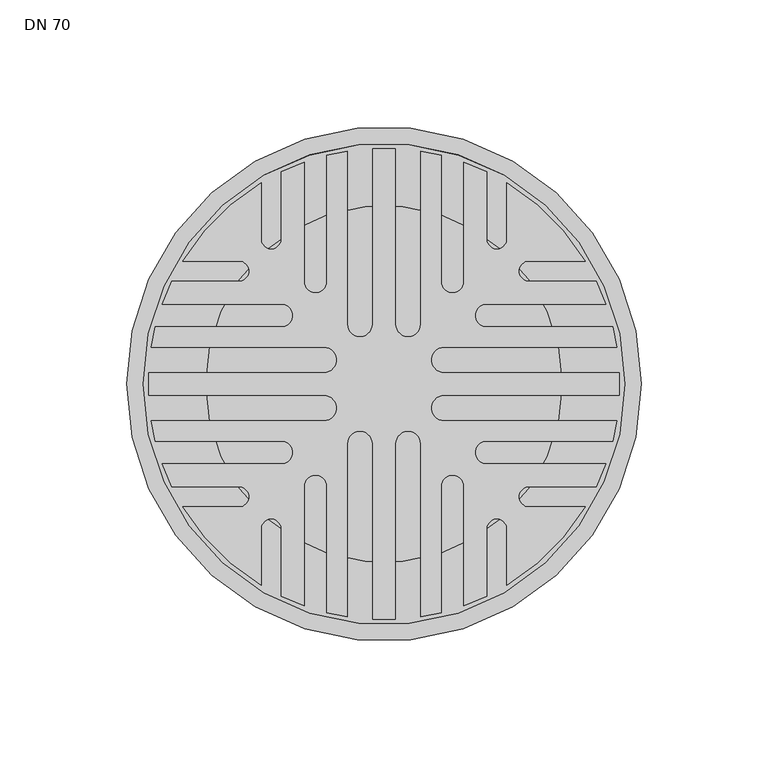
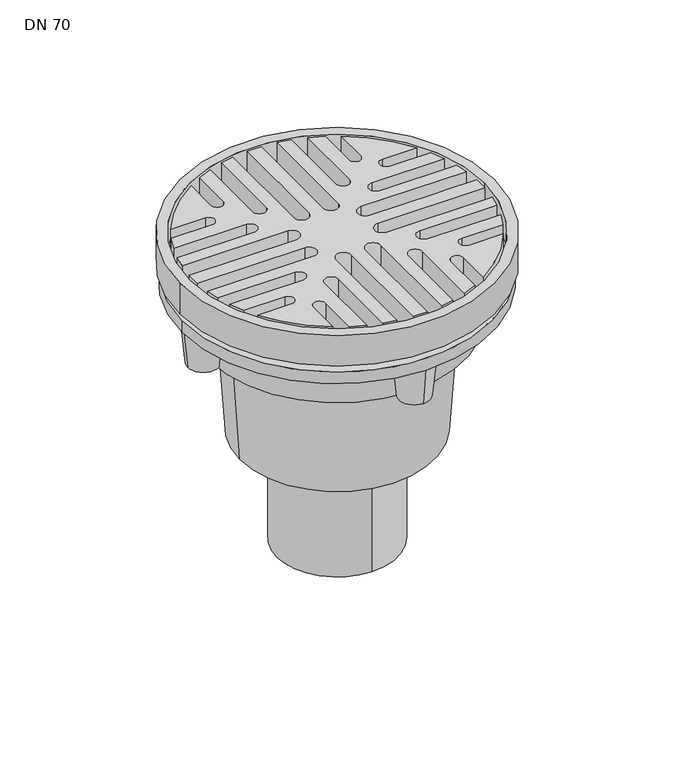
"""IFC4 building model written with IfcOpenShell, lengths in millimetres: sanitary terminal geometry, PF_GEN_UN_parkdeck gully Passavant_ACO : DN 70."""

from ifc_helpers import new_model, si_unit, point, frame, frame_2d, origin, origin_with_axes, origin_2d, place, context, project, spatial, polyline, circle_curve, trimmed, segment, composite_curve, outline, extrude, source, transform, mapped, element, save
from ifc_brep_helpers import plane_surface, cylinder_surface, revolved_surface, advanced_brep


def dn_70_8d39e11c(model_context):
    return source(origin(), model_context, "Body", "SolidModel", [
        advanced_brep(
        [(-75.35, 0.0, -45.0), (75.35, 0.0, -45.0), (-70.35, 0.0, -45.0), (70.35, 0.0, -45.0), (75.35, 0.0, -21.0), (-75.35, 0.0, -21.0), (70.35, 0.0, -21.0), (-70.35, 0.0, -21.0), (95.0, 0.0, -16.0), (-95.0, 0.0, -16.0), (-70.35, 0.0, -16.0), (70.35, 0.0, -16.0), (-101.5, 0.0, -21.0), (101.5, 0.0, -21.0), (-101.5, 0.0, 0.0), (101.5, 0.0, 0.0), (-95.0, 0.0, 0.0), (95.0, 0.0, 0.0)],
        [
            (0, 1, circle_curve(frame((0.0, 0.0, -45.0), z_axis=(0.0, 0.0, -1.0), x_axis=(1.0, 0.0, 0.0)), 75.35)),
            (1, 0, circle_curve(frame((0.0, 0.0, -45.0), z_axis=(0.0, 0.0, -1.0), x_axis=(1.0, 0.0, 0.0)), 75.35)),
            (2, 3, circle_curve(frame((0.0, 0.0, -45.0), z_axis=(0.0, 0.0, 1.0), x_axis=(1.0, 0.0, 0.0)), 70.35)),
            (3, 2, circle_curve(frame((0.0, 0.0, -45.0), z_axis=(0.0, 0.0, 1.0), x_axis=(1.0, 0.0, 0.0)), 70.35)),
            (1, 4),
            (4, 5, circle_curve(frame((0.0, 0.0, -21.0), z_axis=(0.0, 0.0, -1.0), x_axis=(1.0, 0.0, 0.0)), 75.35)),
            (5, 0),
            (5, 4, circle_curve(frame((0.0, 0.0, -21.0), z_axis=(0.0, 0.0, -1.0), x_axis=(1.0, 0.0, 0.0)), 75.35)),
            (3, 6),
            (6, 7, circle_curve(frame((0.0, 0.0, -21.0), z_axis=(0.0, 0.0, 1.0), x_axis=(1.0, 0.0, 0.0)), 70.35)),
            (7, 2),
            (7, 6, circle_curve(frame((0.0, 0.0, -21.0), z_axis=(0.0, 0.0, 1.0), x_axis=(1.0, 0.0, 0.0)), 70.35)),
            (8, 9, circle_curve(frame((0.0, 0.0, -16.0), z_axis=(0.0, 0.0, 1.0), x_axis=(1.0, 0.0, 0.0)), 95.0)),
            (9, 8, circle_curve(frame((0.0, 0.0, -16.0), z_axis=(0.0, 0.0, 1.0), x_axis=(1.0, 0.0, 0.0)), 95.0)),
            (10, 11, circle_curve(frame((0.0, 0.0, -16.0), z_axis=(0.0, 0.0, -1.0), x_axis=(1.0, 0.0, 0.0)), 70.35)),
            (11, 10, circle_curve(frame((0.0, 0.0, -16.0), z_axis=(0.0, 0.0, -1.0), x_axis=(1.0, 0.0, 0.0)), 70.35)),
            (12, 13, circle_curve(frame((0.0, 0.0, -21.0), z_axis=(0.0, 0.0, -1.0), x_axis=(1.0, 0.0, 0.0)), 101.5)),
            (13, 12, circle_curve(frame((0.0, 0.0, -21.0), z_axis=(0.0, 0.0, -1.0), x_axis=(1.0, 0.0, 0.0)), 101.5)),
            (10, 7),
            (6, 11),
            (14, 15, circle_curve(origin_with_axes(), 101.5)),
            (15, 14, circle_curve(origin_with_axes(), 101.5)),
            (16, 17, circle_curve(frame((0.0, 0.0, 0.0), z_axis=(0.0, 0.0, -1.0), x_axis=(1.0, 0.0, 0.0)), 95.0)),
            (17, 16, circle_curve(frame((0.0, 0.0, 0.0), z_axis=(0.0, 0.0, -1.0), x_axis=(1.0, 0.0, 0.0)), 95.0)),
            (14, 12),
            (13, 15),
            (16, 9),
            (8, 17),
        ],
        [
            plane_surface(frame((75.35, 0.0, -45.0), z_axis=(0.0, 0.0, -1.0), x_axis=(0.0, -1.0, 0.0))),
            cylinder_surface(frame((0.0, 0.0, -45.0), z_axis=(0.0, 0.0, 1.0), x_axis=(1.0, 0.0, 0.0)), 75.35),
            revolved_surface(polyline([(70.35, 0.0, -45.0), (70.35, 0.0, -21.0)]), (0.0, 0.0, -25.0), (0.0, 0.0, -1.0)),
            plane_surface(frame((95.0, 0.0, -16.0), z_axis=(0.0, 0.0, 1.0), x_axis=(0.0, 1.0, 0.0))),
            plane_surface(frame((95.0, 0.0, -21.0), z_axis=(0.0, 0.0, -1.0), x_axis=(0.0, -1.0, 0.0))),
            revolved_surface(polyline([(70.35, 0.0, -21.0), (70.35, 0.0, -16.0)]), (0.0, 0.0, -25.0), (0.0, 0.0, -1.0)),
            plane_surface(frame((101.5, 0.0, 0.0), z_axis=(0.0, 0.0, 1.0), x_axis=(0.0, 1.0, 0.0))),
            cylinder_surface(frame((0.0, 0.0, -21.0), z_axis=(0.0, 0.0, 1.0), x_axis=(1.0, 0.0, 0.0)), 101.5),
            revolved_surface(polyline([(95.0, 0.0, -16.0), (95.0, 0.0, 0.0)]), (0.0, 0.0, -25.0), (0.0, 0.0, -1.0)),
        ],
        [
            (0, [[1, 2], [3, 4]]),
            (1, [[-2, 5, 6, 7]]),
            (1, [[-1, -7, 8, -5]]),
            (2, [[-4, 9, 10, 11]]),
            (2, [[-3, -11, 12, -9]]),
            (3, [[13, 14], [15, 16]]),
            (4, [[17, 18], [-6, -8]]),
            (5, [[-15, 19, -10, 20]]),
            (5, [[-16, -20, -12, -19]]),
            (6, [[21, 22], [23, 24]]),
            (7, [[-21, 25, -18, 26]]),
            (7, [[-22, -26, -17, -25]]),
            (8, [[-23, 27, -13, 28]]),
            (8, [[-24, -28, -14, -27]]),
        ],
    ),
        extrude(outline(composite_curve([segment(trimmed(circle_curve(frame_2d((-23.6421356, 9.5)), 5.0), [point((-23.6421356, 4.5))], [point((-23.6421356, 14.5))], True, "CARTESIAN"), True, "CONTINUOUS"), segment(polyline([(-23.6421356, 14.5), (-91.8626692, 14.5)]), True, "CONTINUOUS"), segment(trimmed(circle_curve(origin_2d(), 93.0), [point((-91.8626692, 14.5))], [point((-90.2371875, 22.5))], False, "CARTESIAN"), True, "CONTINUOUS"), segment(polyline([(-90.2371875, 22.5), (-40.4350288, 22.5)]), True, "CONTINUOUS"), segment(trimmed(circle_curve(frame_2d((-40.4350288, 27.0)), 4.5), [point((-40.4350288, 22.5))], [point((-40.4350288, 31.5))], True, "CARTESIAN"), True, "CONTINUOUS"), segment(polyline([(-40.4350288, 31.5), (-87.5028571, 31.5)]), True, "CONTINUOUS"), segment(trimmed(circle_curve(origin_2d(), 93.0), [point((-87.5028571, 31.5))], [point((-83.7182776, 40.5))], False, "CARTESIAN"), True, "CONTINUOUS"), segment(polyline([(-83.7182776, 40.5), (-57.2279221, 40.5)]), True, "CONTINUOUS"), segment(trimmed(circle_curve(frame_2d((-57.2279221, 44.5)), 4.0), [point((-57.2279221, 40.5))], [point((-57.2279221, 48.5))], True, "CARTESIAN"), True, "CONTINUOUS"), segment(polyline([(-57.2279221, 48.5), (-79.3520636, 48.5)]), True, "CONTINUOUS"), segment(trimmed(circle_curve(origin_2d(), 93.0), [point((-79.3520636, 48.5))], [point((-48.5, 79.3520636))], False, "CARTESIAN"), True, "CONTINUOUS"), segment(polyline([(-48.5, 79.3520636), (-48.5, 57.2279221)]), True, "CONTINUOUS"), segment(trimmed(circle_curve(frame_2d((-44.5, 57.2279221)), 4.0), [point((-48.5, 57.2279221))], [point((-40.5, 57.2279221))], True, "CARTESIAN"), True, "CONTINUOUS"), segment(polyline([(-40.5, 57.2279221), (-40.5, 83.7182776)]), True, "CONTINUOUS"), segment(trimmed(circle_curve(origin_2d(), 93.0), [point((-40.5, 83.7182776))], [point((-31.5, 87.5028571))], False, "CARTESIAN"), True, "CONTINUOUS"), segment(polyline([(-31.5, 87.5028571), (-31.5, 40.4350288)]), True, "CONTINUOUS"), segment(trimmed(circle_curve(frame_2d((-27.0, 40.4350288)), 4.5), [point((-31.5, 40.4350288))], [point((-22.5, 40.4350288))], True, "CARTESIAN"), True, "CONTINUOUS"), segment(polyline([(-22.5, 40.4350288), (-22.5, 90.2371875)]), True, "CONTINUOUS"), segment(trimmed(circle_curve(origin_2d(), 93.0), [point((-22.5, 90.2371875))], [point((-14.5, 91.8626692))], False, "CARTESIAN"), True, "CONTINUOUS"), segment(polyline([(-14.5, 91.8626692), (-14.5, 23.6421356)]), True, "CONTINUOUS"), segment(trimmed(circle_curve(frame_2d((-9.5, 23.6421356)), 5.0), [point((-14.5, 23.6421356))], [point((-4.5, 23.6421356))], True, "CARTESIAN"), True, "CONTINUOUS"), segment(polyline([(-4.5, 23.6421356), (-4.5, 92.8910652)]), True, "CONTINUOUS"), segment(trimmed(circle_curve(origin_2d(), 93.0), [point((-4.5, 92.8910652))], [point((4.5, 92.8910652))], False, "CARTESIAN"), True, "CONTINUOUS"), segment(polyline([(4.5, 92.8910652), (4.5, 23.6421356)]), True, "CONTINUOUS"), segment(trimmed(circle_curve(frame_2d((9.5, 23.6421356)), 5.0), [point((4.5, 23.6421356))], [point((14.5, 23.6421356))], True, "CARTESIAN"), True, "CONTINUOUS"), segment(polyline([(14.5, 23.6421356), (14.5, 91.8626692)]), True, "CONTINUOUS"), segment(trimmed(circle_curve(origin_2d(), 93.0), [point((14.5, 91.8626692))], [point((22.5, 90.2371875))], False, "CARTESIAN"), True, "CONTINUOUS"), segment(polyline([(22.5, 90.2371875), (22.5, 40.4350288)]), True, "CONTINUOUS"), segment(trimmed(circle_curve(frame_2d((27.0, 40.4350288)), 4.5), [point((22.5, 40.4350288))], [point((31.5, 40.4350288))], True, "CARTESIAN"), True, "CONTINUOUS"), segment(polyline([(31.5, 40.4350288), (31.5, 87.5028571)]), True, "CONTINUOUS"), segment(trimmed(circle_curve(origin_2d(), 93.0), [point((31.5, 87.5028571))], [point((40.5, 83.7182776))], False, "CARTESIAN"), True, "CONTINUOUS"), segment(polyline([(40.5, 83.7182776), (40.5, 57.2279221)]), True, "CONTINUOUS"), segment(trimmed(circle_curve(frame_2d((44.5, 57.2279221)), 4.0), [point((40.5, 57.2279221))], [point((48.5, 57.2279221))], True, "CARTESIAN"), True, "CONTINUOUS"), segment(polyline([(48.5, 57.2279221), (48.5, 79.3520636)]), True, "CONTINUOUS"), segment(trimmed(circle_curve(origin_2d(), 93.0), [point((48.5, 79.3520636))], [point((79.3520636, 48.5))], False, "CARTESIAN"), True, "CONTINUOUS"), segment(polyline([(79.3520636, 48.5), (57.2279221, 48.5)]), True, "CONTINUOUS"), segment(trimmed(circle_curve(frame_2d((57.2279221, 44.5)), 4.0), [point((57.2279221, 48.5))], [point((57.2279221, 40.5))], True, "CARTESIAN"), True, "CONTINUOUS"), segment(polyline([(57.2279221, 40.5), (83.7182776, 40.5)]), True, "CONTINUOUS"), segment(trimmed(circle_curve(origin_2d(), 93.0), [point((83.7182776, 40.5))], [point((87.5028571, 31.5))], False, "CARTESIAN"), True, "CONTINUOUS"), segment(polyline([(87.5028571, 31.5), (40.4350288, 31.5)]), True, "CONTINUOUS"), segment(trimmed(circle_curve(frame_2d((40.4350288, 27.0)), 4.5), [point((40.4350288, 31.5))], [point((40.4350288, 22.5))], True, "CARTESIAN"), True, "CONTINUOUS"), segment(polyline([(40.4350288, 22.5), (90.2371875, 22.5)]), True, "CONTINUOUS"), segment(trimmed(circle_curve(origin_2d(), 93.0), [point((90.2371875, 22.5))], [point((91.8626692, 14.5))], False, "CARTESIAN"), True, "CONTINUOUS"), segment(polyline([(91.8626692, 14.5), (23.6421356, 14.5)]), True, "CONTINUOUS"), segment(trimmed(circle_curve(frame_2d((23.6421356, 9.5)), 5.0), [point((23.6421356, 14.5))], [point((23.6421356, 4.5))], True, "CARTESIAN"), True, "CONTINUOUS"), segment(polyline([(23.6421356, 4.5), (66.0353516, 4.5), (73.1315188, 4.5), (92.8910652, 4.5)]), True, "CONTINUOUS"), segment(trimmed(circle_curve(origin_2d(), 93.0), [point((92.8910652, 4.5))], [point((92.8910652, -4.5))], False, "CARTESIAN"), True, "CONTINUOUS"), segment(polyline([(92.8910652, -4.5), (23.6421356, -4.5)]), True, "CONTINUOUS"), segment(trimmed(circle_curve(frame_2d((23.6421356, -9.5)), 5.0), [point((23.6421356, -4.5))], [point((23.6421356, -14.5))], True, "CARTESIAN"), True, "CONTINUOUS"), segment(polyline([(23.6421356, -14.5), (91.8626692, -14.5)]), True, "CONTINUOUS"), segment(trimmed(circle_curve(origin_2d(), 93.0), [point((91.8626692, -14.5))], [point((90.2371875, -22.5))], False, "CARTESIAN"), True, "CONTINUOUS"), segment(polyline([(90.2371875, -22.5), (40.4350288, -22.5)]), True, "CONTINUOUS"), segment(trimmed(circle_curve(frame_2d((40.4350288, -27.0)), 4.5), [point((40.4350288, -22.5))], [point((40.4350288, -31.5))], True, "CARTESIAN"), True, "CONTINUOUS"), segment(polyline([(40.4350288, -31.5), (87.5028571, -31.5)]), True, "CONTINUOUS"), segment(trimmed(circle_curve(origin_2d(), 93.0), [point((87.5028571, -31.5))], [point((83.7182776, -40.5))], False, "CARTESIAN"), True, "CONTINUOUS"), segment(polyline([(83.7182776, -40.5), (57.2279221, -40.5)]), True, "CONTINUOUS"), segment(trimmed(circle_curve(frame_2d((57.2279221, -44.5)), 4.0), [point((57.2279221, -40.5))], [point((57.2279221, -48.5))], True, "CARTESIAN"), True, "CONTINUOUS"), segment(polyline([(57.2279221, -48.5), (79.3520636, -48.5)]), True, "CONTINUOUS"), segment(trimmed(circle_curve(origin_2d(), 93.0), [point((79.3520636, -48.5))], [point((48.5, -79.3520636))], False, "CARTESIAN"), True, "CONTINUOUS"), segment(polyline([(48.5, -79.3520636), (48.5, -57.2279221)]), True, "CONTINUOUS"), segment(trimmed(circle_curve(frame_2d((44.5, -57.2279221)), 4.0), [point((48.5, -57.2279221))], [point((40.5, -57.2279221))], True, "CARTESIAN"), True, "CONTINUOUS"), segment(polyline([(40.5, -57.2279221), (40.5, -83.7182776)]), True, "CONTINUOUS"), segment(trimmed(circle_curve(origin_2d(), 93.0), [point((40.5, -83.7182776))], [point((31.5, -87.5028571))], False, "CARTESIAN"), True, "CONTINUOUS"), segment(polyline([(31.5, -87.5028571), (31.5, -40.4350288)]), True, "CONTINUOUS"), segment(trimmed(circle_curve(frame_2d((27.0, -40.4350288)), 4.5), [point((31.5, -40.4350288))], [point((22.5, -40.4350288))], True, "CARTESIAN"), True, "CONTINUOUS"), segment(polyline([(22.5, -40.4350288), (22.5, -90.2371875)]), True, "CONTINUOUS"), segment(trimmed(circle_curve(origin_2d(), 93.0), [point((22.5, -90.2371875))], [point((14.5, -91.8626692))], False, "CARTESIAN"), True, "CONTINUOUS"), segment(polyline([(14.5, -91.8626692), (14.5, -23.6421356)]), True, "CONTINUOUS"), segment(trimmed(circle_curve(frame_2d((9.5, -23.6421356)), 5.0), [point((14.5, -23.6421356))], [point((4.5, -23.6421356))], True, "CARTESIAN"), True, "CONTINUOUS"), segment(polyline([(4.5, -23.6421356), (4.5, -92.8910652)]), True, "CONTINUOUS"), segment(trimmed(circle_curve(origin_2d(), 93.0), [point((4.5, -92.8910652))], [point((-4.5, -92.8910652))], False, "CARTESIAN"), True, "CONTINUOUS"), segment(polyline([(-4.5, -92.8910652), (-4.5, -23.6421356)]), True, "CONTINUOUS"), segment(trimmed(circle_curve(frame_2d((-9.5, -23.6421356)), 5.0), [point((-4.5, -23.6421356))], [point((-14.5, -23.6421356))], True, "CARTESIAN"), True, "CONTINUOUS"), segment(polyline([(-14.5, -23.6421356), (-14.5, -91.8626692)]), True, "CONTINUOUS"), segment(trimmed(circle_curve(origin_2d(), 93.0), [point((-14.5, -91.8626692))], [point((-22.5, -90.2371875))], False, "CARTESIAN"), True, "CONTINUOUS"), segment(polyline([(-22.5, -90.2371875), (-22.5, -40.4350288)]), True, "CONTINUOUS"), segment(trimmed(circle_curve(frame_2d((-27.0, -40.4350288)), 4.5), [point((-22.5, -40.4350288))], [point((-31.5, -40.4350288))], True, "CARTESIAN"), True, "CONTINUOUS"), segment(polyline([(-31.5, -40.4350288), (-31.5, -87.5028571)]), True, "CONTINUOUS"), segment(trimmed(circle_curve(origin_2d(), 93.0), [point((-31.5, -87.5028571))], [point((-40.5, -83.7182776))], False, "CARTESIAN"), True, "CONTINUOUS"), segment(polyline([(-40.5, -83.7182776), (-40.5, -57.2279221)]), True, "CONTINUOUS"), segment(trimmed(circle_curve(frame_2d((-44.5, -57.2279221)), 4.0), [point((-40.5, -57.2279221))], [point((-48.5, -57.2279221))], True, "CARTESIAN"), True, "CONTINUOUS"), segment(polyline([(-48.5, -57.2279221), (-48.5, -79.3520636)]), True, "CONTINUOUS"), segment(trimmed(circle_curve(origin_2d(), 93.0), [point((-48.5, -79.3520636))], [point((-79.3520636, -48.5))], False, "CARTESIAN"), True, "CONTINUOUS"), segment(polyline([(-79.3520636, -48.5), (-57.2279221, -48.5)]), True, "CONTINUOUS"), segment(trimmed(circle_curve(frame_2d((-57.2279221, -44.5)), 4.0), [point((-57.2279221, -48.5))], [point((-57.2279221, -40.5))], True, "CARTESIAN"), True, "CONTINUOUS"), segment(polyline([(-57.2279221, -40.5), (-83.7182776, -40.5)]), True, "CONTINUOUS"), segment(trimmed(circle_curve(origin_2d(), 93.0), [point((-83.7182776, -40.5))], [point((-87.5028571, -31.5))], False, "CARTESIAN"), True, "CONTINUOUS"), segment(polyline([(-87.5028571, -31.5), (-40.4350288, -31.5)]), True, "CONTINUOUS"), segment(trimmed(circle_curve(frame_2d((-40.4350288, -27.0)), 4.5), [point((-40.4350288, -31.5))], [point((-40.4350288, -22.5))], True, "CARTESIAN"), True, "CONTINUOUS"), segment(polyline([(-40.4350288, -22.5), (-90.2371875, -22.5)]), True, "CONTINUOUS"), segment(trimmed(circle_curve(origin_2d(), 93.0), [point((-90.2371875, -22.5))], [point((-91.8626692, -14.5))], False, "CARTESIAN"), True, "CONTINUOUS"), segment(polyline([(-91.8626692, -14.5), (-23.6421356, -14.5)]), True, "CONTINUOUS"), segment(trimmed(circle_curve(frame_2d((-23.6421356, -9.5)), 5.0), [point((-23.6421356, -14.5))], [point((-23.6421356, -4.5))], True, "CARTESIAN"), True, "CONTINUOUS"), segment(polyline([(-23.6421356, -4.5), (-92.8910652, -4.5)]), True, "CONTINUOUS"), segment(trimmed(circle_curve(origin_2d(), 93.0), [point((-92.8910652, -4.5))], [point((-92.8910652, 4.5))], False, "CARTESIAN"), True, "CONTINUOUS"), segment(polyline([(-92.8910652, 4.5), (-23.6421356, 4.5)]), True, "CONTINUOUS")], self_intersect=False)), frame((0.0, 0.0, -16.0), z_axis=(0.0, 0.0, 1.0), x_axis=(1.0, 0.0, 0.0)), (0.0, 0.0, 1.0), 16.0),
        advanced_brep(
        [(96.5, 0.0, -59.0), (76.5, 0.0, -59.0), (99.0, 0.0, -34.0), (74.0, 0.0, -34.0)],
        [
            (0, 1, circle_curve(frame((86.5, 0.0, -59.0), z_axis=(0.0, 0.0, -1.0), x_axis=(1.0000000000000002, 0.0, 0.0)), 10.0)),
            (1, 0, circle_curve(frame((86.5, 0.0, -59.0), z_axis=(0.0, 0.0, -1.0), x_axis=(-1.0, 0.0, 0.0)), 10.0)),
            (2, 3, circle_curve(frame((86.5, 0.0, -34.0), z_axis=(0.0, 0.0, 1.0), x_axis=(-1.0, 0.0, 0.0)), 12.5)),
            (3, 2, circle_curve(frame((86.5, 0.0, -34.0), z_axis=(0.0, 0.0, 1.0), x_axis=(1.0000000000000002, 0.0, 0.0)), 12.5)),
            (3, 1),
            (0, 2),
        ],
        [
            plane_surface(frame((86.5, 0.0, -59.0), z_axis=(0.0, 0.0, -1.0), x_axis=(0.0, -1.0, 0.0))),
            plane_surface(frame((86.5, 0.0, -34.0), z_axis=(0.0, 0.0, 1.0), x_axis=(0.0, -1.0, 0.0))),
            revolved_surface(polyline([(96.5, 0.0, -59.0), (99.0, 0.0, -34.0)]), (86.5, 0.0, -159.0), (0.0, 0.0, 1.0)),
            revolved_surface(polyline([(76.5, 0.0, -59.0), (74.0, 0.0, -34.0)]), (86.5, 0.0, -159.0), (0.0, 0.0, 1.0)),
        ],
        [
            (0, [[1, 2]]),
            (1, [[3, 4]]),
            (2, [[-4, 5, -1, 6]]),
            (3, [[-3, -6, -2, -5]]),
        ],
    ),
        advanced_brep(
        [(0.0, -96.5, -59.0), (0.0, -76.5, -59.0), (0.0, -99.0, -34.0), (0.0, -74.0, -34.0)],
        [
            (0, 1, circle_curve(frame((0.0, -86.5, -59.0), z_axis=(0.0, 0.0, -1.0), x_axis=(0.0, -1.0000000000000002, 0.0)), 10.0)),
            (1, 0, circle_curve(frame((0.0, -86.5, -59.0), z_axis=(0.0, 0.0, -1.0), x_axis=(0.0, 1.0, 0.0)), 10.0)),
            (2, 3, circle_curve(frame((0.0, -86.5, -34.0), z_axis=(0.0, 0.0, 1.0), x_axis=(0.0, 1.0, 0.0)), 12.5)),
            (3, 2, circle_curve(frame((0.0, -86.5, -34.0), z_axis=(0.0, 0.0, 1.0), x_axis=(0.0, -1.0000000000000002, 0.0)), 12.5)),
            (3, 1),
            (0, 2),
        ],
        [
            plane_surface(frame((0.0, -86.5, -59.0), z_axis=(0.0, 0.0, -1.0), x_axis=(-1.0, 0.0, 0.0))),
            plane_surface(frame((0.0, -86.5, -34.0), z_axis=(0.0, 0.0, 1.0), x_axis=(-1.0, 0.0, 0.0))),
            revolved_surface(polyline([(0.0, -96.5, -59.0), (0.0, -99.0, -34.0)]), (0.0, -86.5, -159.0), (0.0, 0.0, 1.0)),
            revolved_surface(polyline([(0.0, -76.5, -59.0), (0.0, -74.0, -34.0)]), (0.0, -86.5, -159.0), (0.0, 0.0, 1.0)),
        ],
        [
            (0, [[1, 2]]),
            (1, [[3, 4]]),
            (2, [[-4, 5, -1, 6]]),
            (3, [[-3, -6, -2, -5]]),
        ],
    ),
        advanced_brep(
        [(-96.5, 0.0, -59.0), (-76.5, 0.0, -59.0), (-99.0, 0.0, -34.0), (-74.0, 0.0, -34.0)],
        [
            (0, 1, circle_curve(frame((-86.5, 0.0, -59.0), z_axis=(0.0, 0.0, -1.0), x_axis=(-1.0000000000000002, 0.0, 0.0)), 10.0)),
            (1, 0, circle_curve(frame((-86.5, 0.0, -59.0), z_axis=(0.0, 0.0, -1.0), x_axis=(1.0, 0.0, 0.0)), 10.0)),
            (2, 3, circle_curve(frame((-86.5, 0.0, -34.0), z_axis=(0.0, 0.0, 1.0), x_axis=(1.0, 0.0, 0.0)), 12.5)),
            (3, 2, circle_curve(frame((-86.5, 0.0, -34.0), z_axis=(0.0, 0.0, 1.0), x_axis=(-1.0000000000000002, 0.0, 0.0)), 12.5)),
            (3, 1),
            (0, 2),
        ],
        [
            plane_surface(frame((-86.5, 0.0, -59.0), z_axis=(0.0, 0.0, -1.0), x_axis=(0.0, 1.0, 0.0))),
            plane_surface(frame((-86.5, 0.0, -34.0), z_axis=(0.0, 0.0, 1.0), x_axis=(0.0, 1.0, 0.0))),
            revolved_surface(polyline([(-96.5, 0.0, -59.0), (-99.0, 0.0, -34.0)]), (-86.5, 0.0, -159.0), (0.0, 0.0, 1.0)),
            revolved_surface(polyline([(-76.5, 0.0, -59.0), (-74.0, 0.0, -34.0)]), (-86.5, 0.0, -159.0), (0.0, 0.0, 1.0)),
        ],
        [
            (0, [[1, 2]]),
            (1, [[3, 4]]),
            (2, [[-4, 5, -1, 6]]),
            (3, [[-3, -6, -2, -5]]),
        ],
    ),
        advanced_brep(
        [(0.0, 96.5, -59.0), (0.0, 76.5, -59.0), (0.0, 99.0, -34.0), (0.0, 74.0, -34.0)],
        [
            (0, 1, circle_curve(frame((0.0, 86.5, -59.0), z_axis=(0.0, 0.0, -1.0), x_axis=(0.0, 1.0000000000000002, 0.0)), 10.0)),
            (1, 0, circle_curve(frame((0.0, 86.5, -59.0), z_axis=(0.0, 0.0, -1.0), x_axis=(0.0, -1.0, 0.0)), 10.0)),
            (2, 3, circle_curve(frame((0.0, 86.5, -34.0), z_axis=(0.0, 0.0, 1.0), x_axis=(0.0, -1.0, 0.0)), 12.5)),
            (3, 2, circle_curve(frame((0.0, 86.5, -34.0), z_axis=(0.0, 0.0, 1.0), x_axis=(0.0, 1.0000000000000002, 0.0)), 12.5)),
            (3, 1),
            (0, 2),
        ],
        [
            plane_surface(frame((0.0, 86.5, -59.0), z_axis=(0.0, 0.0, -1.0), x_axis=(1.0, 0.0, 0.0))),
            plane_surface(frame((0.0, 86.5, -34.0), z_axis=(0.0, 0.0, 1.0), x_axis=(1.0, 0.0, 0.0))),
            revolved_surface(polyline([(0.0, 96.5, -59.0), (0.0, 99.0, -34.0)]), (0.0, 86.5, -159.0), (0.0, 0.0, 1.0)),
            revolved_surface(polyline([(0.0, 76.5, -59.0), (0.0, 74.0, -34.0)]), (0.0, 86.5, -159.0), (0.0, 0.0, 1.0)),
        ],
        [
            (0, [[1, 2]]),
            (1, [[3, 4]]),
            (2, [[-4, 5, -1, 6]]),
            (3, [[-3, -6, -2, -5]]),
        ],
    ),
        advanced_brep(
        [(-100.0, 0.0, -26.0), (100.0, 0.0, -26.0), (-100.0, 0.0, -34.0), (100.0, 0.0, -34.0), (-82.0, 0.0, -34.0), (82.0, 0.0, -34.0), (-82.0, 0.0, -59.63), (82.0, 0.0, -59.63), (67.2, 0.0, -69.98), (-67.2, 0.0, -69.98), (0.0, 39.0, -208.73), (0.0, -39.0, -208.73), (0.0, -39.0, -133.73), (0.0, 39.0, -133.73), (-62.85, 0.0, -133.73), (62.85, 0.0, -133.73)],
        [
            (0, 1, circle_curve(frame((0.0, 0.0, -26.0), z_axis=(0.0, 0.0, 1.0), x_axis=(1.0, 0.0, 0.0)), 100.0)),
            (1, 0, circle_curve(frame((0.0, 0.0, -26.0), z_axis=(0.0, 0.0, 1.0), x_axis=(1.0, 0.0, 0.0)), 100.0)),
            (2, 3, circle_curve(frame((0.0, 0.0, -34.0), z_axis=(0.0, 0.0, -1.0), x_axis=(1.0, 0.0, 0.0)), 100.0)),
            (3, 2, circle_curve(frame((0.0, 0.0, -34.0), z_axis=(0.0, 0.0, -1.0), x_axis=(1.0, 0.0, 0.0)), 100.0)),
            (4, 5, circle_curve(frame((0.0, 0.0, -34.0), z_axis=(0.0, 0.0, 1.0), x_axis=(1.0, 0.0, 0.0)), 82.0)),
            (5, 4, circle_curve(frame((0.0, 0.0, -34.0), z_axis=(0.0, 0.0, 1.0), x_axis=(1.0, 0.0, 0.0)), 82.0)),
            (4, 6),
            (6, 7, circle_curve(frame((0.0, 0.0, -59.63), z_axis=(0.0, 0.0, 1.0), x_axis=(1.0, 0.0, 0.0)), 82.0)),
            (7, 5),
            (7, 6, circle_curve(frame((0.0, 0.0, -59.63), z_axis=(0.0, 0.0, 1.0), x_axis=(1.0, 0.0, 0.0)), 82.0)),
            (8, 7),
            (6, 9),
            (9, 8, circle_curve(frame((0.0, 0.0, -69.98), z_axis=(0.0, 0.0, 1.0), x_axis=(-1.0, 0.0, 0.0)), 67.2)),
            (8, 9, circle_curve(frame((0.0, 0.0, -69.98), z_axis=(0.0, 0.0, 1.0), x_axis=(1.0, 0.0, 0.0)), 67.2)),
            (10, 11, circle_curve(frame((0.0, 0.0, -208.73), z_axis=(0.0, 0.0, -1.0), x_axis=(0.0, -1.0, 0.0)), 39.0)),
            (11, 10, circle_curve(frame((0.0, 0.0, -208.73), z_axis=(0.0, 0.0, -1.0), x_axis=(0.0, -1.0, 0.0)), 39.0)),
            (11, 12),
            (12, 13, circle_curve(frame((0.0, 0.0, -133.73), z_axis=(0.0, 0.0, -1.0), x_axis=(0.0, -1.0, 0.0)), 39.0)),
            (13, 10),
            (13, 12, circle_curve(frame((0.0, 0.0, -133.73), z_axis=(0.0, 0.0, -1.0), x_axis=(0.0, -1.0, 0.0)), 39.0)),
            (14, 15, circle_curve(frame((0.0, 0.0, -133.73), z_axis=(0.0, 0.0, -1.0), x_axis=(1.0, 0.0, 0.0)), 62.85)),
            (15, 14, circle_curve(frame((0.0, 0.0, -133.73), z_axis=(0.0, 0.0, -1.0), x_axis=(-1.0, 0.0, 0.0)), 62.85)),
            (15, 8),
            (9, 14),
            (0, 2),
            (3, 1),
        ],
        [
            plane_surface(frame((-10.0, 10.0, -26.0), z_axis=(0.0, 0.0, 1.0), x_axis=(-1.0, 0.0, 0.0))),
            plane_surface(frame((-10.0, 10.0, -34.0), z_axis=(0.0, 0.0, -1.0), x_axis=(1.0, 0.0, 0.0))),
            cylinder_surface(frame((0.0, 0.0, -59.63), z_axis=(0.0, 0.0, 1.0), x_axis=(1.0, 0.0, 0.0)), 82.0),
            revolved_surface(polyline([(67.20000000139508, 0.0, -69.98), (82.0, 0.0, -59.63)]), (0.0, 0.0, -116.9745946), (0.0, 0.0, 1.0)),
            plane_surface(frame((0.0, -39.0, -208.73), z_axis=(0.0, 0.0, -1.0), x_axis=(-1.0, 0.0, 0.0))),
            cylinder_surface(frame((0.0, 0.0, -208.73), z_axis=(0.0, 0.0, 1.0), x_axis=(0.0, -1.0, 0.0)), 39.0),
            plane_surface(frame((0.0, 0.0, -133.73), z_axis=(0.0, 0.0, -1.0), x_axis=(0.0, -1.0, 0.0))),
            revolved_surface(polyline([(62.84999999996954, 0.0, -133.73000000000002), (67.2, 0.0, -69.98000000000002)]), (0.0, 0.0, -1054.8075862), (0.0, 0.0, 1.0)),
            revolved_surface(polyline([(-62.84999999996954, 0.0, -133.73000000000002), (-67.2, 0.0, -69.98000000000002)]), (0.0, 0.0, -1054.8075862), (0.0, 0.0, 1.0)),
            cylinder_surface(frame((0.0, 0.0, -34.0), z_axis=(0.0, 0.0, 1.0), x_axis=(1.0, 0.0, 0.0)), 100.0),
        ],
        [
            (0, [[1, 2]]),
            (1, [[3, 4], [5, 6]]),
            (2, [[7, 8, 9, -5]]),
            (2, [[-7, -6, -9, 10]]),
            (3, [[11, -8, 12, 13]]),
            (3, [[-11, 14, -12, -10]]),
            (4, [[15, 16]]),
            (5, [[-16, 17, 18, 19]]),
            (5, [[-15, -19, 20, -17]]),
            (6, [[21, 22], [-18, -20]]),
            (7, [[-22, 23, -13, 24]]),
            (8, [[-21, -24, -14, -23]]),
            (9, [[-1, 25, -4, 26]]),
            (9, [[-2, -26, -3, -25]]),
        ],
    ),
    ])


if __name__ == "__main__":
    model = new_model("IFC4")
    model_context = context("Model", 3, world=origin())
    ifc_project = project(units=[si_unit("LENGTHUNIT", "METRE", prefix="MILLI")], contexts=[model_context])
    site = spatial("IfcSite", under=ifc_project)
    building = spatial("IfcBuilding", under=site)
    placement = place(None, origin())
    dn_70_shape = dn_70_8d39e11c(model_context)
    element("IfcSanitaryTerminal", 1, ObjectType="PF_GEN_UN_parkdeck gully Passavant_ACO : DN 70", at=placement, inside=building, context=model_context, shape_type="MappedRepresentation", body=[
        mapped(dn_70_shape, transform((0.0, 0.0, 0.0), x_axis=(1.0, 0.0, 0.0), y_axis=(0.0, 1.0, 0.0), z_axis=(0.0, 0.0, 1.0))),
    ])
    save(model, "model.ifc")
